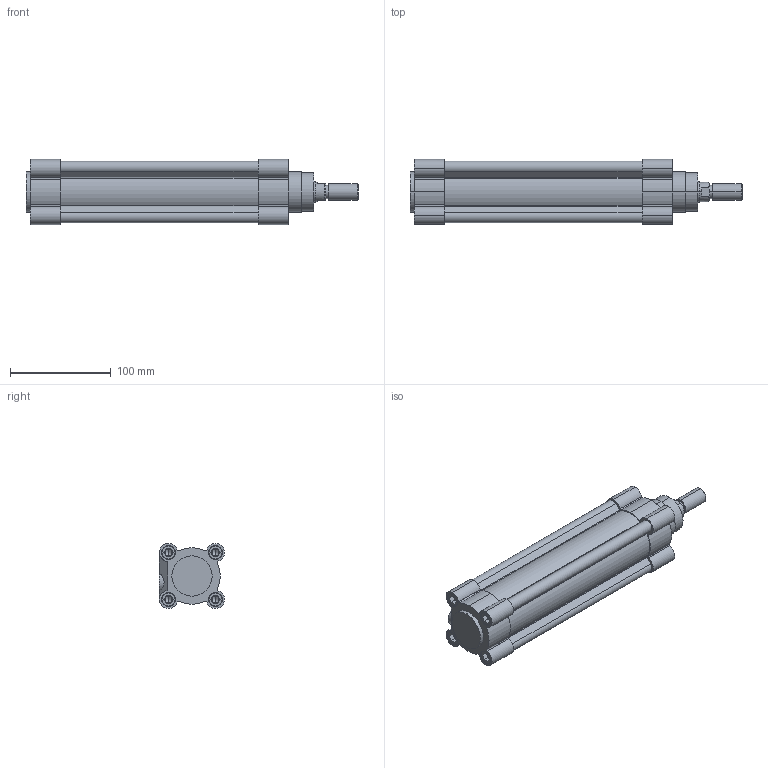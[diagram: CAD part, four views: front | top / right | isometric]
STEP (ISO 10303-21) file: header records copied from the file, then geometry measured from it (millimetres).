
FILE_DESCRIPTION (( 'STEP AP203' ), '1' );
FILE_NAME ('CPME50-150.STEP', '2023-05-25T13:37:21', ( '' ), ( '' ), 'SwSTEP 2.0', 'SolidWorks 2019', '' );
FILE_SCHEMA (( 'CONFIG_CONTROL_DESIGN' ));
Length unit declared in the file: millimetre
Products named in the file (1): CPME50-150
Bounding box: 329 x 64.5 x 64.5 mm (x, y, z)
Volume: 570116.2 mm3; surface area: 173443.6 mm2
Topology: 4 solids, 4 shells, 390 faces, 959 edges, 594 vertices
Faces by surface type: plane 181, cylinder 165, cone 44
Entity records: 11486 total; most frequent: DIRECTION 2099, CARTESIAN_POINT 1994, ORIENTED_EDGE 1878, EDGE_CURVE 939, AXIS2_PLACEMENT_3D 779, VERTEX_POINT 594, VECTOR 541, LINE 541
